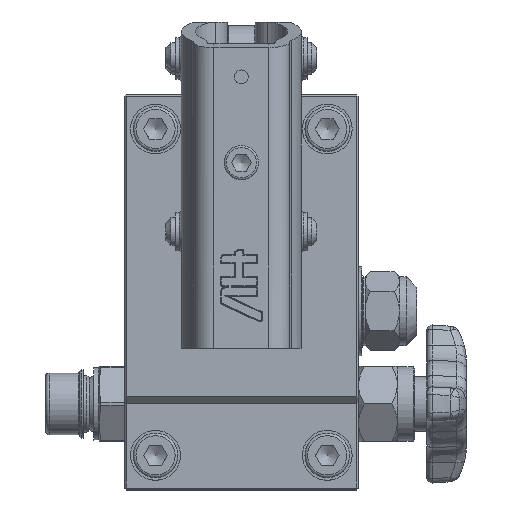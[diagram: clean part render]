
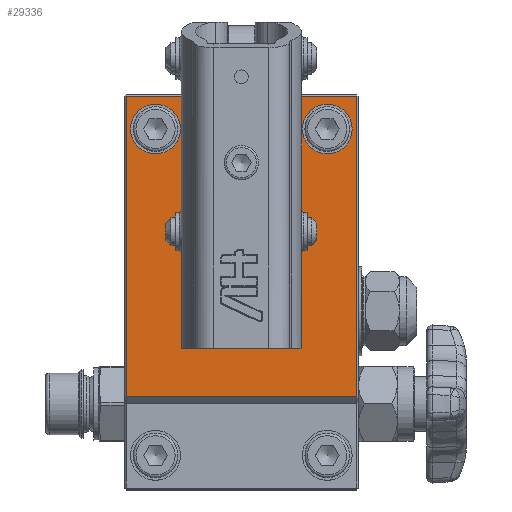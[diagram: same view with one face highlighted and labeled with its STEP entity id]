
A CAD part, top view. The second image highlights one B-rep face of the part: STEP entity #29336.
In plain terms, the highlighted planar face has unit normal (0, 0, 1).
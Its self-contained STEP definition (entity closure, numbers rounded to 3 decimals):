
#29260=CARTESIAN_POINT('',(19.25,75.0,48.));
#29261=VERTEX_POINT('',#29260);
#29262=CARTESIAN_POINT('',(34.,75.0,48.));
#29263=DIRECTION('',(0.0,0.0,1.0));
#29264=DIRECTION('',(1.0,0.0,0.0));
#29265=AXIS2_PLACEMENT_3D('',#29262,#29263,#29264);
#29266=CIRCLE('',#29265,14.75);
#29267=EDGE_CURVE('',#29261,#29261,#29266,.T.);
#29272=CARTESIAN_POINT('',(34.,57.5,48.));
#29273=DIRECTION('',(0.0,0.0,1.0));
#29274=DIRECTION('',(1.0,0.0,0.0));
#29275=AXIS2_PLACEMENT_3D('',#29272,#29273,#29274);
#29276=PLANE('',#29275);
#29277=CARTESIAN_POINT('',(67.5,27.,48.));
#29278=VERTEX_POINT('',#29277);
#29279=CARTESIAN_POINT('',(0.5,27.,48.));
#29280=VERTEX_POINT('',#29279);
#29281=CARTESIAN_POINT('',(67.5,27.,48.));
#29282=DIRECTION('',(-1.0,0.0,0.0));
#29283=VECTOR('',#29282,67.);
#29284=LINE('',#29281,#29283);
#29285=EDGE_CURVE('',#29278,#29280,#29284,.T.);
#29286=ORIENTED_EDGE('',*,*,#29285,.F.);
#29287=CARTESIAN_POINT('',(67.5,114.5,48.));
#29288=VERTEX_POINT('',#29287);
#29289=CARTESIAN_POINT('',(67.5,114.5,48.));
#29290=DIRECTION('',(0.0,-1.0,0.0));
#29291=VECTOR('',#29290,87.5);
#29292=LINE('',#29289,#29291);
#29293=EDGE_CURVE('',#29288,#29278,#29292,.T.);
#29294=ORIENTED_EDGE('',*,*,#29293,.F.);
#29295=CARTESIAN_POINT('',(0.5,114.5,48.));
#29296=VERTEX_POINT('',#29295);
#29297=CARTESIAN_POINT('',(0.5,114.5,48.));
#29298=DIRECTION('',(1.0,0.0,0.0));
#29299=VECTOR('',#29298,67.0);
#29300=LINE('',#29297,#29299);
#29301=EDGE_CURVE('',#29296,#29288,#29300,.T.);
#29302=ORIENTED_EDGE('',*,*,#29301,.F.);
#29303=CARTESIAN_POINT('',(0.5,27.,48.));
#29304=DIRECTION('',(0.0,1.0,0.0));
#29305=VECTOR('',#29304,87.5);
#29306=LINE('',#29303,#29305);
#29307=EDGE_CURVE('',#29280,#29296,#29306,.T.);
#29308=ORIENTED_EDGE('',*,*,#29307,.F.);
#29309=EDGE_LOOP('',(#29286,#29294,#29302,#29308));
#29310=FACE_OUTER_BOUND('',#29309,.T.);
#29311=CARTESIAN_POINT('',(66.25,105.0,48.));
#29312=VERTEX_POINT('',#29311);
#29313=CARTESIAN_POINT('',(59.,105.0,48.));
#29314=DIRECTION('',(0.0,0.0,-1.0));
#29315=DIRECTION('',(-1.0,0.0,0.0));
#29316=AXIS2_PLACEMENT_3D('',#29313,#29314,#29315);
#29317=CIRCLE('',#29316,7.25);
#29318=EDGE_CURVE('',#29312,#29312,#29317,.T.);
#29319=ORIENTED_EDGE('',*,*,#29318,.T.);
#29320=EDGE_LOOP('',(#29319));
#29321=FACE_BOUND('',#29320,.T.);
#29322=CARTESIAN_POINT('',(16.25,105.0,48.));
#29323=VERTEX_POINT('',#29322);
#29324=CARTESIAN_POINT('',(9.,105.0,48.));
#29325=DIRECTION('',(0.0,0.0,-1.0));
#29326=DIRECTION('',(-1.0,0.0,0.0));
#29327=AXIS2_PLACEMENT_3D('',#29324,#29325,#29326);
#29328=CIRCLE('',#29327,7.25);
#29329=EDGE_CURVE('',#29323,#29323,#29328,.T.);
#29330=ORIENTED_EDGE('',*,*,#29329,.T.);
#29331=EDGE_LOOP('',(#29330));
#29332=FACE_BOUND('',#29331,.T.);
#29333=ORIENTED_EDGE('',*,*,#29267,.F.);
#29334=EDGE_LOOP('',(#29333));
#29335=FACE_BOUND('',#29334,.T.);
#29336=ADVANCED_FACE('',(#29310,#29321,#29332,#29335),#29276,.T.);
